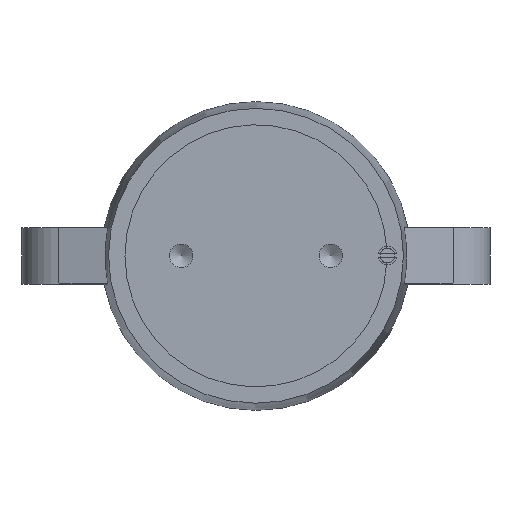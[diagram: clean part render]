
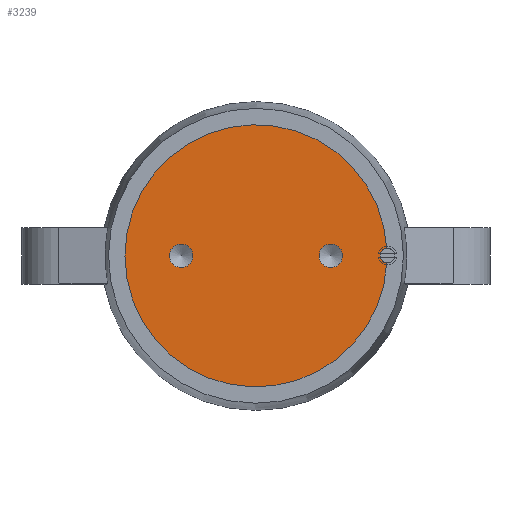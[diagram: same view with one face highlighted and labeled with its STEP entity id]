
A CAD part, top view. The second image highlights one B-rep face of the part: STEP entity #3239.
In plain terms, the highlighted planar face has unit normal (0, 0, 1).
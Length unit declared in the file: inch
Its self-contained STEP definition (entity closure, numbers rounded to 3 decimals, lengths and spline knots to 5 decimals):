
#347=PLANE('',#3536);
#438=FACE_BOUND('',#1107,.T.);
#439=FACE_BOUND('',#1108,.T.);
#851=FACE_OUTER_BOUND('',#1106,.T.);
#1106=EDGE_LOOP('',(#2527,#2528));
#1107=EDGE_LOOP('',(#2529));
#1108=EDGE_LOOP('',(#2530));
#1339=CIRCLE('',#3535,0.098);
#1340=CIRCLE('',#3537,1.75);
#1341=CIRCLE('',#3538,0.15745);
#1342=CIRCLE('',#3539,0.15745);
#1614=VERTEX_POINT('',#4995);
#1616=VERTEX_POINT('',#4999);
#1617=VERTEX_POINT('',#5004);
#1618=VERTEX_POINT('',#5006);
#1953=EDGE_CURVE('',#1614,#1616,#1339,.T.);
#1954=EDGE_CURVE('',#1616,#1614,#1340,.T.);
#1955=EDGE_CURVE('',#1617,#1617,#1341,.T.);
#1956=EDGE_CURVE('',#1618,#1618,#1342,.T.);
#2527=ORIENTED_EDGE('',*,*,#1953,.T.);
#2528=ORIENTED_EDGE('',*,*,#1954,.T.);
#2529=ORIENTED_EDGE('',*,*,#1955,.T.);
#2530=ORIENTED_EDGE('',*,*,#1956,.T.);
#3239=ADVANCED_FACE('',(#851,#438,#439),#347,.T.);
#3535=AXIS2_PLACEMENT_3D('',#5001,#4081,#4082);
#3536=AXIS2_PLACEMENT_3D('',#5002,#4083,#4084);
#3537=AXIS2_PLACEMENT_3D('',#5003,#4085,#4086);
#3538=AXIS2_PLACEMENT_3D('',#5005,#4087,#4088);
#3539=AXIS2_PLACEMENT_3D('',#5007,#4089,#4090);
#4081=DIRECTION('center_axis',(0.,0.,
-1.));
#4082=DIRECTION('ref_axis',(1.,0.,0.));
#4083=DIRECTION('center_axis',(0.,0.,
1.));
#4084=DIRECTION('ref_axis',(1.,0.,0.));
#4085=DIRECTION('center_axis',(0.,0.,
1.));
#4086=DIRECTION('ref_axis',(1.,0.,0.));
#4087=DIRECTION('center_axis',(0.,0.,
-1.));
#4088=DIRECTION('ref_axis',(1.,0.,0.));
#4089=DIRECTION('center_axis',(0.,0.,
-1.));
#4090=DIRECTION('ref_axis',(1.,0.,0.));
#4995=CARTESIAN_POINT('',(1.74743,-0.09477,5.));
#4999=CARTESIAN_POINT('',(1.74711,0.10049,5.));
#5001=CARTESIAN_POINT('Origin',(1.75577,0.00288,5.));
#5002=CARTESIAN_POINT('Origin',(0.875,0.,5.));
#5003=CARTESIAN_POINT('Origin',(0.,0.,
5.));
#5004=CARTESIAN_POINT('',(-0.84255,0.,5.));
#5005=CARTESIAN_POINT('Origin',(-1.,0.,5.));
#5006=CARTESIAN_POINT('',(1.15745,0.,5.));
#5007=CARTESIAN_POINT('Origin',(1.,0.,5.));
